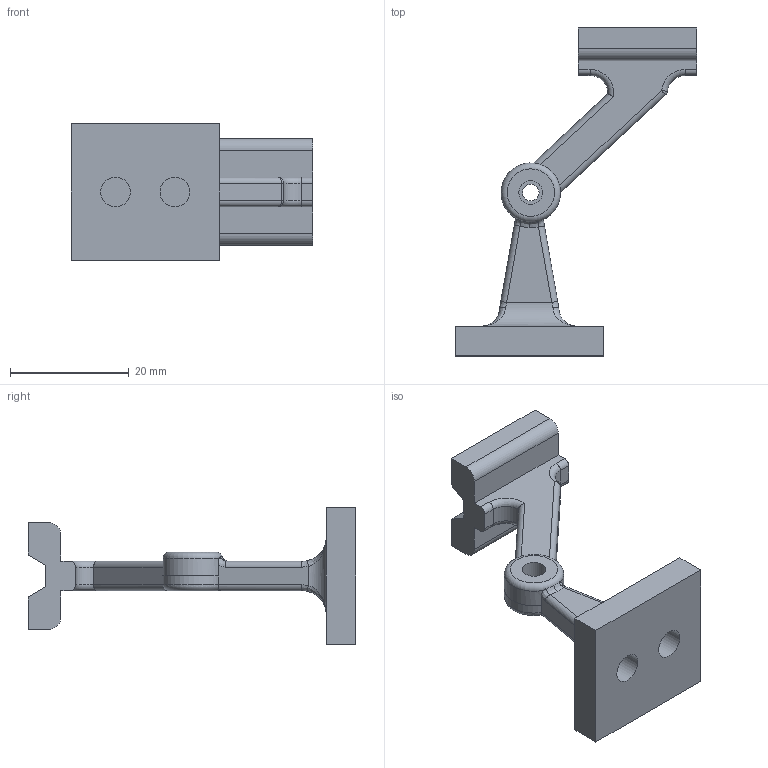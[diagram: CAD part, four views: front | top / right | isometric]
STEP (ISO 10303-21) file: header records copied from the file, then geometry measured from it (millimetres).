
FILE_DESCRIPTION(/* description */ (''),/* implementation_level */ '2;1');
FILE_NAME(/* name */ 'Spray Nedle Holder.step',/* time_stamp */ '2026-06-22T18:07:11-07:00',/* author */ (''),/* organization */ (''),/* preprocessor_version */ 'ST-DEVELOPER v20.1',/* originating_system */ 'Autodesk Translation Framework v15.8.0.0',/* authorisation */ '');
FILE_SCHEMA (('AUTOMOTIVE_DESIGN { 1 0 10303 214 3 1 1 }'));
Length unit declared in the file: millimetre
Products named in the file (4): Spray Nedle Holder; PICO tip holder assembled; PICO tip holder_Short Tip Top v1; Short Tip Bottom (1)
Assembly tree (3 placements, depth 3):
  Spray Nedle Holder
    PICO tip holder assembled
      PICO tip holder_Short Tip Top v1
    Short Tip Bottom (1)
Bounding box: 40.76 x 55.23 x 23 mm (x, y, z)
Volume: 6501.1 mm3; surface area: 4478.3 mm2
Topology: 2 solids, 2 shells, 88 faces, 213 edges, 130 vertices
Faces by surface type: plane 35, cylinder 33, bspline 12, torus 6, sphere 2
Full cylindrical faces by diameter (mm): 2.8 x1, 4 x3, 5 x2
Entity records: 3291 total; most frequent: CARTESIAN_POINT 1184, ORIENTED_EDGE 418, DIRECTION 392, EDGE_CURVE 209, AXIS2_PLACEMENT_3D 145, VERTEX_POINT 130, LINE 102, VECTOR 102
